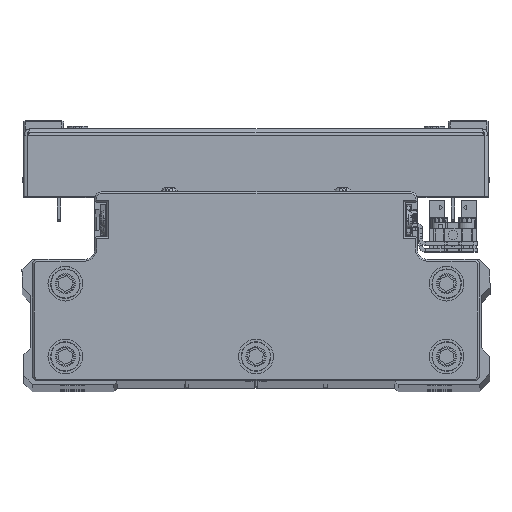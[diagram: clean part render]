
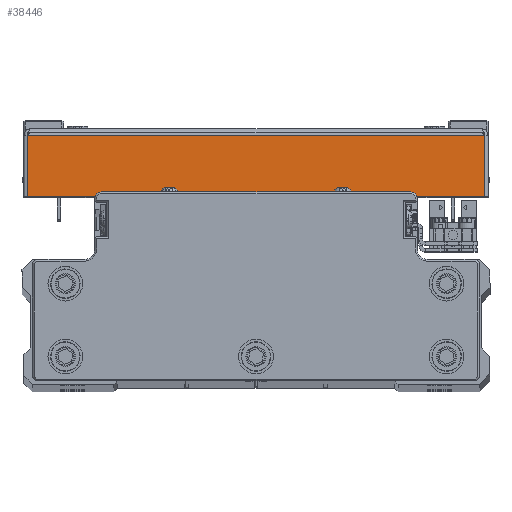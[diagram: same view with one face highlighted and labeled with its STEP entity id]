
A CAD part, top view. The second image highlights one B-rep face of the part: STEP entity #38446.
In plain terms, the highlighted planar face has unit normal (0, 0, 1) as drawn and (1, 0, 0) by its records, which use the part's own axes.
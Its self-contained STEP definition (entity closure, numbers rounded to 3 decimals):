
#1045 = CARTESIAN_POINT ( 'NONE',  ( 100., 0., 65.929 ) ) ;
#1559 = DIRECTION ( 'NONE',  ( -1., 0., 0. ) ) ;
#1564 = CARTESIAN_POINT ( 'NONE',  ( 100., 1., 65.929 ) ) ;
#2228 = VECTOR ( 'NONE', #14960, 1000. ) ;
#4101 = EDGE_CURVE ( 'NONE', #22074, #17787, #21722, .T. ) ;
#4393 = DIRECTION ( 'NONE',  ( 0., 0., 1. ) ) ;
#4918 = EDGE_CURVE ( 'NONE', #22909, #17787, #32296, .T. ) ;
#4963 = FACE_OUTER_BOUND ( 'NONE', #29427, .T. ) ;
#5142 = LINE ( 'NONE', #19081, #7203 ) ;
#7203 = VECTOR ( 'NONE', #32988, 1000. ) ;
#12334 = LINE ( 'NONE', #26244, #15457 ) ;
#12830 = CARTESIAN_POINT ( 'NONE',  ( 100., 18.5, -65.929 ) ) ;
#13805 = ORIENTED_EDGE ( 'NONE', *, *, #4918, .F. ) ;
#14960 = DIRECTION ( 'NONE',  ( 0., 1., 0. ) ) ;
#15290 = VECTOR ( 'NONE', #4393, 1000. ) ;
#15457 = VECTOR ( 'NONE', #40187, 1000. ) ;
#15484 = DIRECTION ( 'NONE',  ( 0., -1., 0. ) ) ;
#15917 = CARTESIAN_POINT ( 'NONE',  ( 100., 18.5, 65.929 ) ) ;
#17787 = VERTEX_POINT ( 'NONE', #15917 ) ;
#18886 = PLANE ( 'NONE',  #25486 ) ;
#19081 = CARTESIAN_POINT ( 'NONE',  ( 100., 0., -65.929 ) ) ;
#19101 = ORIENTED_EDGE ( 'NONE', *, *, #26793, .F. ) ;
#21722 = LINE ( 'NONE', #35642, #15290 ) ;
#22043 = EDGE_CURVE ( 'NONE', #33734, #22074, #5142, .T. ) ;
#22074 = VERTEX_POINT ( 'NONE', #12830 ) ;
#22909 = VERTEX_POINT ( 'NONE', #1564 ) ;
#24076 = ORIENTED_EDGE ( 'NONE', *, *, #4101, .T. ) ;
#25486 = AXIS2_PLACEMENT_3D ( 'NONE', #32793, #1559, #15484 ) ;
#26244 = CARTESIAN_POINT ( 'NONE',  ( 100., 1., 67. ) ) ;
#26793 = EDGE_CURVE ( 'NONE', #33734, #22909, #12334, .T. ) ;
#29427 = EDGE_LOOP ( 'NONE', ( #19101, #38303, #24076, #13805 ) ) ;
#32296 = LINE ( 'NONE', #1045, #2228 ) ;
#32793 = CARTESIAN_POINT ( 'NONE',  ( 100., 0., 0. ) ) ;
#32988 = DIRECTION ( 'NONE',  ( 0., 1., 0. ) ) ;
#33734 = VERTEX_POINT ( 'NONE', #40676 ) ;
#35642 = CARTESIAN_POINT ( 'NONE',  ( 100., 18.5, 0. ) ) ;
#38303 = ORIENTED_EDGE ( 'NONE', *, *, #22043, .T. ) ;
#38446 = ADVANCED_FACE ( 'NONE', ( #4963 ), #18886, .F. ) ;
#40187 = DIRECTION ( 'NONE',  ( 0., 0., 1. ) ) ;
#40676 = CARTESIAN_POINT ( 'NONE',  ( 100., 1., -65.929 ) ) ;
